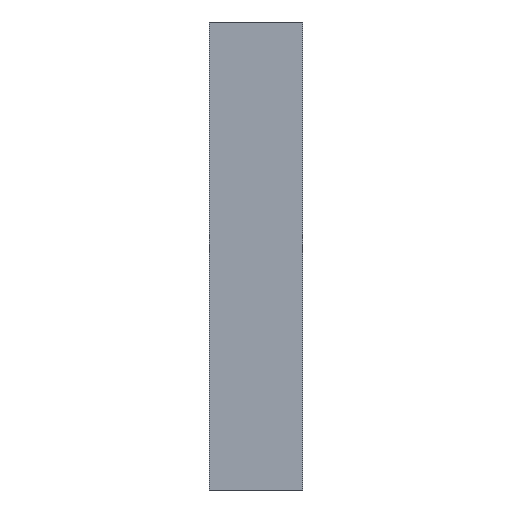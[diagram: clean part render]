
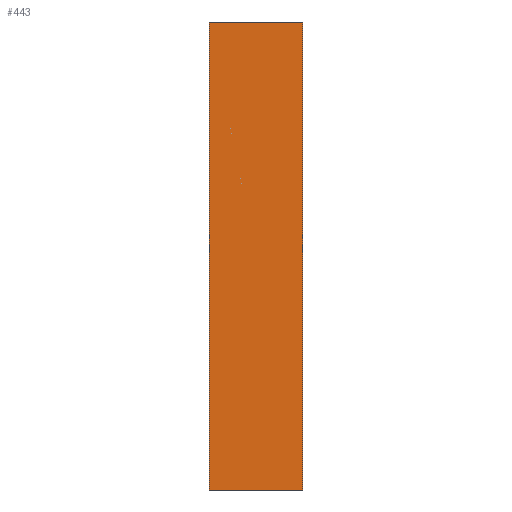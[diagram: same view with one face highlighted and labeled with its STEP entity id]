
A CAD part, left-side view. The second image highlights one B-rep face of the part: STEP entity #443.
In plain terms, the highlighted planar face has unit normal (-1, 0, 0).
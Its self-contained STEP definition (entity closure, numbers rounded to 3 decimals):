
#94 = EDGE_CURVE ( 'NONE', #495, #491, #226, .T. ) ;
#95 = EDGE_CURVE ( 'NONE', #482, #491, #232, .T. ) ;
#96 = EDGE_CURVE ( 'NONE', #492, #495, #230, .T. ) ;
#97 = EDGE_CURVE ( 'NONE', #492, #482, #236, .T. ) ;
#141 = EDGE_LOOP ( 'NONE', ( #617, #545, #582, #600 ) ) ;
#226 = LINE ( 'NONE', #844, #233 ) ;
#230 = LINE ( 'NONE', #849, #237 ) ;
#232 = LINE ( 'NONE', #856, #235 ) ;
#233 = VECTOR ( 'NONE', #855, 1000. ) ;
#235 = VECTOR ( 'NONE', #858, 1000. ) ;
#236 = LINE ( 'NONE', #860, #239 ) ;
#237 = VECTOR ( 'NONE', #859, 1000. ) ;
#239 = VECTOR ( 'NONE', #861, 1000. ) ;
#319 = FACE_OUTER_BOUND ( 'NONE', #141, .T. ) ;
#443 = ADVANCED_FACE ( 'NONE', ( #319 ), #1185, .F. ) ;
#482 = VERTEX_POINT ( 'NONE', #1276 ) ;
#491 = VERTEX_POINT ( 'NONE', #1285 ) ;
#492 = VERTEX_POINT ( 'NONE', #1286 ) ;
#495 = VERTEX_POINT ( 'NONE', #1289 ) ;
#545 = ORIENTED_EDGE ( 'NONE', *, *, #94, .F. ) ;
#582 = ORIENTED_EDGE ( 'NONE', *, *, #96, .F. ) ;
#600 = ORIENTED_EDGE ( 'NONE', *, *, #97, .T. ) ;
#617 = ORIENTED_EDGE ( 'NONE', *, *, #95, .T. ) ;
#844 = CARTESIAN_POINT ( 'NONE',  ( -27., -10.5, 105. ) ) ;
#849 = CARTESIAN_POINT ( 'NONE',  ( -27., -10.5, 105. ) ) ;
#855 = DIRECTION ( 'NONE',  ( 0., 0., -1. ) ) ;
#856 = CARTESIAN_POINT ( 'NONE',  ( -27., -10.5, 0. ) ) ;
#858 = DIRECTION ( 'NONE',  ( 0., -1., 0. ) ) ;
#859 = DIRECTION ( 'NONE',  ( 0., -1., 0. ) ) ;
#860 = CARTESIAN_POINT ( 'NONE',  ( -27., 10.5, 105. ) ) ;
#861 = DIRECTION ( 'NONE',  ( 0., 0., -1. ) ) ;
#1177 = CARTESIAN_POINT ( 'NONE',  ( -27., -10.5, 105. ) ) ;
#1185 = PLANE ( 'NONE',  #1329 ) ;
#1187 = DIRECTION ( 'NONE',  ( 1., 0., 0. ) ) ;
#1188 = DIRECTION ( 'NONE',  ( 0., 0., -1. ) ) ;
#1276 = CARTESIAN_POINT ( 'NONE',  ( -27., 10.5, 0. ) ) ;
#1285 = CARTESIAN_POINT ( 'NONE',  ( -27., -10.5, 0. ) ) ;
#1286 = CARTESIAN_POINT ( 'NONE',  ( -27., 10.5, 105. ) ) ;
#1289 = CARTESIAN_POINT ( 'NONE',  ( -27., -10.5, 105. ) ) ;
#1329 = AXIS2_PLACEMENT_3D ( 'NONE', #1177, #1187, #1188 ) ;
